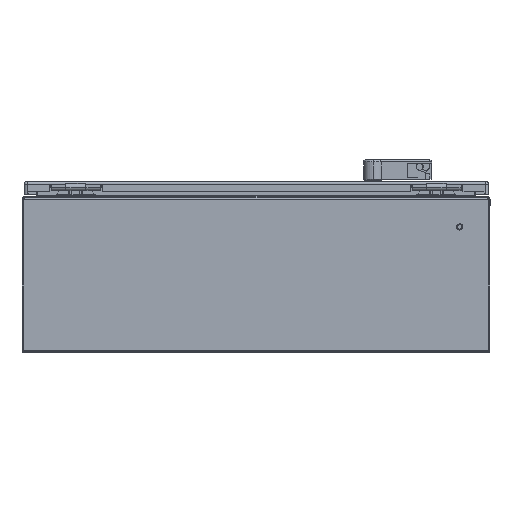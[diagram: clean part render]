
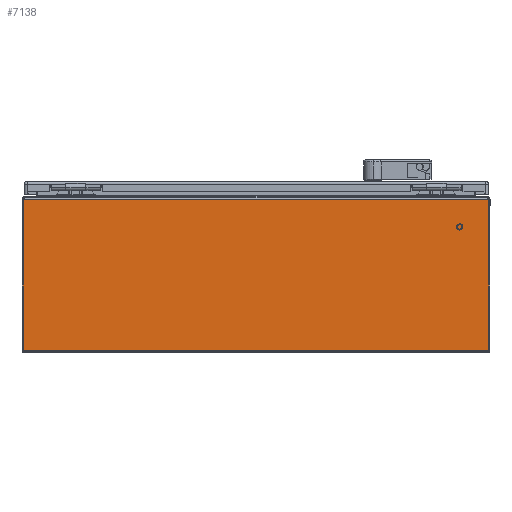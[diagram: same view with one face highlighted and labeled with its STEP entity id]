
A CAD part, left-side view. The second image highlights one B-rep face of the part: STEP entity #7138.
In plain terms, the highlighted planar face has unit normal (-1, 0, 0).
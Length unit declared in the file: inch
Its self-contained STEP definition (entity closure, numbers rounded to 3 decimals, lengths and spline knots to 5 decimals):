
#1536 = CARTESIAN_POINT ( 'NONE',  ( -12.206, -11.94429, 7.855 ) ) ;
#4886 = EDGE_CURVE ( 'NONE', #51897, #26031, #22236, .T. ) ;
#7138 = ADVANCED_FACE ( 'NONE', ( #60904 ), #12713, .F. ) ;
#8250 = ORIENTED_EDGE ( 'NONE', *, *, #82086, .F. ) ;
#8276 = CARTESIAN_POINT ( 'NONE',  ( -12.206, -11.94429, 8. ) ) ;
#12713 = PLANE ( 'NONE',  #91508 ) ;
#15322 = ORIENTED_EDGE ( 'NONE', *, *, #32005, .F. ) ;
#15514 = VERTEX_POINT ( 'NONE', #93940 ) ;
#20684 = ORIENTED_EDGE ( 'NONE', *, *, #27558, .T. ) ;
#21304 = CARTESIAN_POINT ( 'NONE',  ( -12.206, 12., 8. ) ) ;
#21586 = VECTOR ( 'NONE', #24838, 39.37008 ) ;
#22236 = LINE ( 'NONE', #8276, #80536 ) ;
#24838 = DIRECTION ( 'NONE',  ( 0., 0., 1. ) ) ;
#26031 = VERTEX_POINT ( 'NONE', #1536 ) ;
#27558 = EDGE_CURVE ( 'NONE', #26031, #15514, #75623, .T. ) ;
#30262 = DIRECTION ( 'NONE',  ( 0., 0., 1. ) ) ;
#32005 = EDGE_CURVE ( 'NONE', #51897, #79571, #43448, .T. ) ;
#32808 = CARTESIAN_POINT ( 'NONE',  ( -12.206, 11.94429, 0.055 ) ) ;
#35950 = CARTESIAN_POINT ( 'NONE',  ( -12.206, -11.94429, 7.855 ) ) ;
#40033 = CARTESIAN_POINT ( 'NONE',  ( -12.206, 12., 0.115 ) ) ;
#42336 = DIRECTION ( 'NONE',  ( 0., 1., 0. ) ) ;
#43317 = CARTESIAN_POINT ( 'NONE',  ( -12.206, 11.94429, 0.115 ) ) ;
#43448 = LINE ( 'NONE', #40033, #52560 ) ;
#51897 = VERTEX_POINT ( 'NONE', #87332 ) ;
#52560 = VECTOR ( 'NONE', #75457, 39.37008 ) ;
#60904 = FACE_OUTER_BOUND ( 'NONE', #78819, .T. ) ;
#71348 = ORIENTED_EDGE ( 'NONE', *, *, #4886, .T. ) ;
#75457 = DIRECTION ( 'NONE',  ( 0., 1., 0. ) ) ;
#75623 = LINE ( 'NONE', #35950, #92788 ) ;
#78819 = EDGE_LOOP ( 'NONE', ( #20684, #8250, #15322, #71348 ) ) ;
#79127 = DIRECTION ( 'NONE',  ( 1., 0., 0. ) ) ;
#79571 = VERTEX_POINT ( 'NONE', #43317 ) ;
#80536 = VECTOR ( 'NONE', #30262, 39.37008 ) ;
#80981 = LINE ( 'NONE', #32808, #21586 ) ;
#82086 = EDGE_CURVE ( 'NONE', #79571, #15514, #80981, .T. ) ;
#87332 = CARTESIAN_POINT ( 'NONE',  ( -12.206, -11.94429, 0.115 ) ) ;
#91508 = AXIS2_PLACEMENT_3D ( 'NONE', #21304, #79127, #94147 ) ;
#92788 = VECTOR ( 'NONE', #42336, 39.37008 ) ;
#93940 = CARTESIAN_POINT ( 'NONE',  ( -12.206, 11.94429, 7.855 ) ) ;
#94147 = DIRECTION ( 'NONE',  ( 0., 0., -1. ) ) ;
